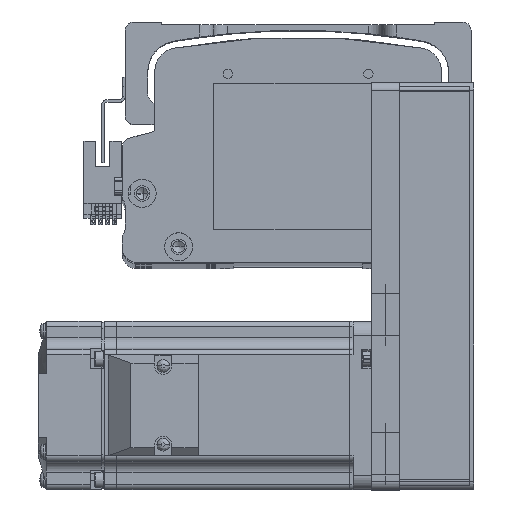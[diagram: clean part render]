
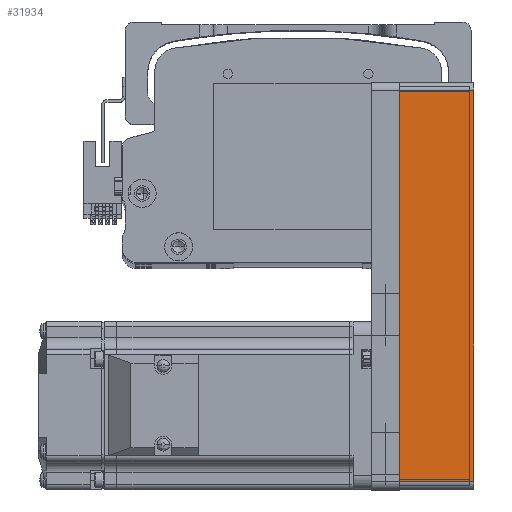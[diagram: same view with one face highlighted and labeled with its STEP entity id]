
A CAD part, top view. The second image highlights one B-rep face of the part: STEP entity #31934.
In plain terms, the highlighted planar face has unit normal (0, 0, 1) as drawn and (0, -1, 0) by its records, which use the part's own axes.
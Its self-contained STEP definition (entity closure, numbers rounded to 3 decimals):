
#1254 = CARTESIAN_POINT ( 'NONE',  ( 72.5, -30., 26.5 ) ) ;
#1664 = EDGE_LOOP ( 'NONE', ( #26769, #67072, #84265, #51902 ) ) ;
#1960 = VERTEX_POINT ( 'NONE', #12843 ) ;
#4623 = LINE ( 'NONE', #1254, #71756 ) ;
#7113 = CARTESIAN_POINT ( 'NONE',  ( -69.5, -30., 26.5 ) ) ;
#7760 = DIRECTION ( 'NONE',  ( 1., 0., 0. ) ) ;
#7877 = PLANE ( 'NONE',  #51225 ) ;
#12843 = CARTESIAN_POINT ( 'NONE',  ( -69.5, -30., 26.5 ) ) ;
#13476 = FACE_OUTER_BOUND ( 'NONE', #1664, .T. ) ;
#15620 = VERTEX_POINT ( 'NONE', #22182 ) ;
#17606 = CARTESIAN_POINT ( 'NONE',  ( 69.5, -30., 26.5 ) ) ;
#20867 = DIRECTION ( 'NONE',  ( 1., 0., 0. ) ) ;
#22182 = CARTESIAN_POINT ( 'NONE',  ( -69.5, -30., 0. ) ) ;
#24166 = DIRECTION ( 'NONE',  ( 0., 0., 1. ) ) ;
#26769 = ORIENTED_EDGE ( 'NONE', *, *, #60972, .T. ) ;
#29326 = VECTOR ( 'NONE', #78421, 1000. ) ;
#29877 = EDGE_CURVE ( 'NONE', #1960, #15620, #65924, .T. ) ;
#31081 = VECTOR ( 'NONE', #24166, 1000. ) ;
#31934 = ADVANCED_FACE ( 'NONE', ( #13476 ), #7877, .F. ) ;
#34056 = CARTESIAN_POINT ( 'NONE',  ( 72.5, -30., 26.5 ) ) ;
#37404 = VERTEX_POINT ( 'NONE', #44461 ) ;
#37664 = CARTESIAN_POINT ( 'NONE',  ( 69.5, -30., 0. ) ) ;
#38330 = VECTOR ( 'NONE', #7760, 1000. ) ;
#39433 = EDGE_CURVE ( 'NONE', #52545, #37404, #67713, .T. ) ;
#40366 = LINE ( 'NONE', #46699, #38330 ) ;
#40573 = DIRECTION ( 'NONE',  ( -1., 0., 0. ) ) ;
#44461 = CARTESIAN_POINT ( 'NONE',  ( 69.5, -30., 26.5 ) ) ;
#46699 = CARTESIAN_POINT ( 'NONE',  ( 72.5, -30., 0. ) ) ;
#51225 = AXIS2_PLACEMENT_3D ( 'NONE', #34056, #79437, #40573 ) ;
#51902 = ORIENTED_EDGE ( 'NONE', *, *, #29877, .T. ) ;
#52545 = VERTEX_POINT ( 'NONE', #37664 ) ;
#60972 = EDGE_CURVE ( 'NONE', #15620, #52545, #40366, .T. ) ;
#64507 = EDGE_CURVE ( 'NONE', #1960, #37404, #4623, .T. ) ;
#65924 = LINE ( 'NONE', #7113, #29326 ) ;
#67072 = ORIENTED_EDGE ( 'NONE', *, *, #39433, .T. ) ;
#67713 = LINE ( 'NONE', #17606, #31081 ) ;
#71756 = VECTOR ( 'NONE', #20867, 1000. ) ;
#78421 = DIRECTION ( 'NONE',  ( 0., 0., -1. ) ) ;
#79437 = DIRECTION ( 'NONE',  ( 0., 1., 0. ) ) ;
#84265 = ORIENTED_EDGE ( 'NONE', *, *, #64507, .F. ) ;
